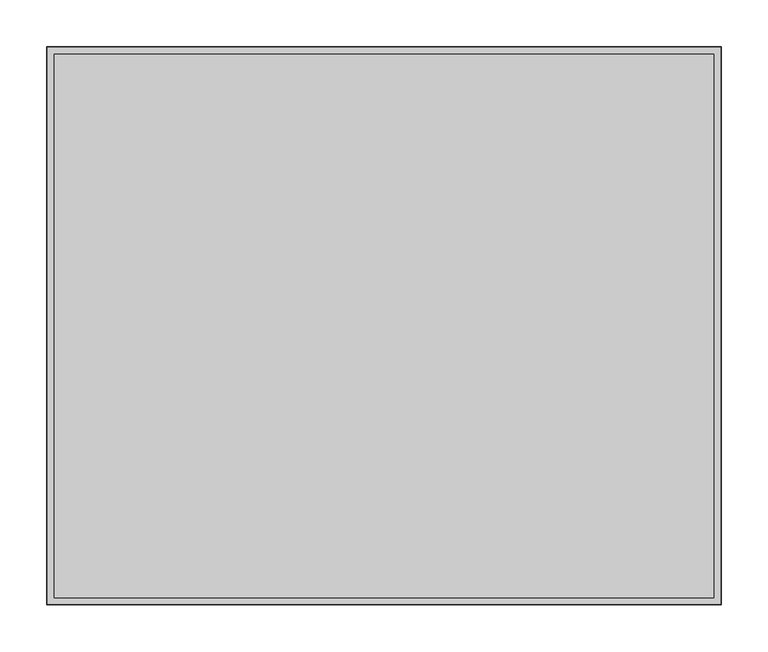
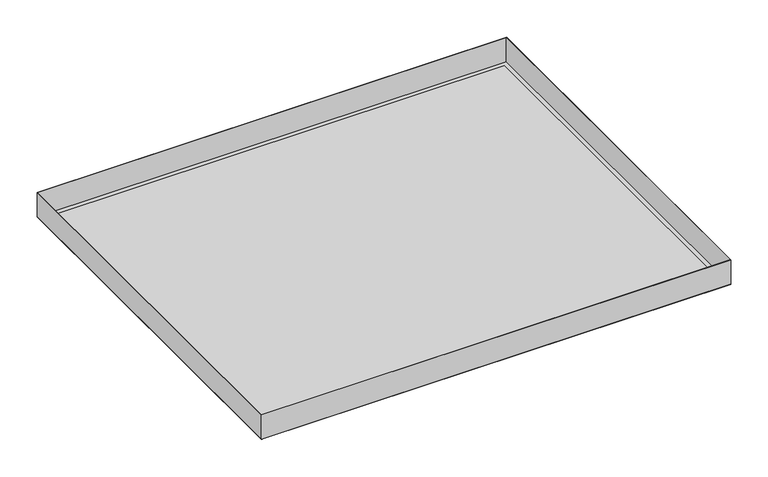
"""IFC4 building model written with IfcOpenShell, lengths in millimetres: proxy geometry, durlum_S5-100_panel : durlum_S5-100_panel_wall_length_cut."""

from ifc_helpers import new_model, si_unit, frame, origin, origin_with_axes, place, context, project, spatial, polyline, outline, extrude, source, transform, mapped, element, save


def generic_models_4f811f19(model_context):
    return source(origin(), model_context, "Body", "SweptSolid", [
        extrude(outline(polyline([(362.25, 299.75), (362.25, -299.75), (-362.25, -299.75), (-362.25, 299.75), (362.25, 299.75)]), holes=[polyline([(361.65, 299.15), (-361.65, 299.15), (-361.65, -299.15), (361.65, -299.15), (361.65, 299.15)])]), frame((0.0, 0.0, 0.6), z_axis=(0.0, 0.0, 1.0), x_axis=(1.0, 0.0, 0.0)), (0.0, 0.0, 1.0), 39.4),
        extrude(outline(polyline([(354.25, 291.75), (354.25, -291.75), (-354.25, -291.75), (-354.25, 291.75), (354.25, 291.75)])), frame((0.0, 0.0, 0.6), z_axis=(0.0, 0.0, 1.0), x_axis=(1.0, 0.0, 0.0)), (0.0, 0.0, 1.0), 0.6),
        extrude(outline(polyline([(362.25, 299.75), (362.25, -299.75), (-362.25, -299.75), (-362.25, 299.75), (362.25, 299.75)]), holes=[polyline([(354.25, 291.75), (-354.25, 291.75), (-354.25, -291.75), (354.25, -291.75), (354.25, 291.75)])]), origin_with_axes(), (0.0, 0.0, 1.0), 0.6),
        extrude(outline(polyline([(354.25, 291.75), (354.25, -291.75), (-354.25, -291.75), (-354.25, 291.75), (354.25, 291.75)])), origin_with_axes(), (0.0, 0.0, 1.0), 0.6),
    ])


if __name__ == "__main__":
    model = new_model("IFC4")
    model_context = context("Model", 3, world=origin())
    ifc_project = project(units=[si_unit("LENGTHUNIT", "METRE", prefix="MILLI")], contexts=[model_context])
    site = spatial("IfcSite", under=ifc_project)
    building = spatial("IfcBuilding", under=site)
    placement = place(None, origin())
    generic_models_shape = generic_models_4f811f19(model_context)
    element("IfcBuildingElementProxy", 1, Name="durlum_S5-100_panel : durlum_S5-100_panel_wall_length_cut", ObjectType="durlum_S5-100_panel : durlum_S5-100_panel_wall_length_cut", at=placement, inside=building, context=model_context, shape_type="MappedRepresentation", body=[
        mapped(generic_models_shape, transform((0.0, 0.0, 0.0), x_axis=(1.0, 0.0, 0.0), y_axis=(0.0, 1.0, 0.0), z_axis=(0.0, 0.0, 1.0))),
    ])
    save(model, "model.ifc")
